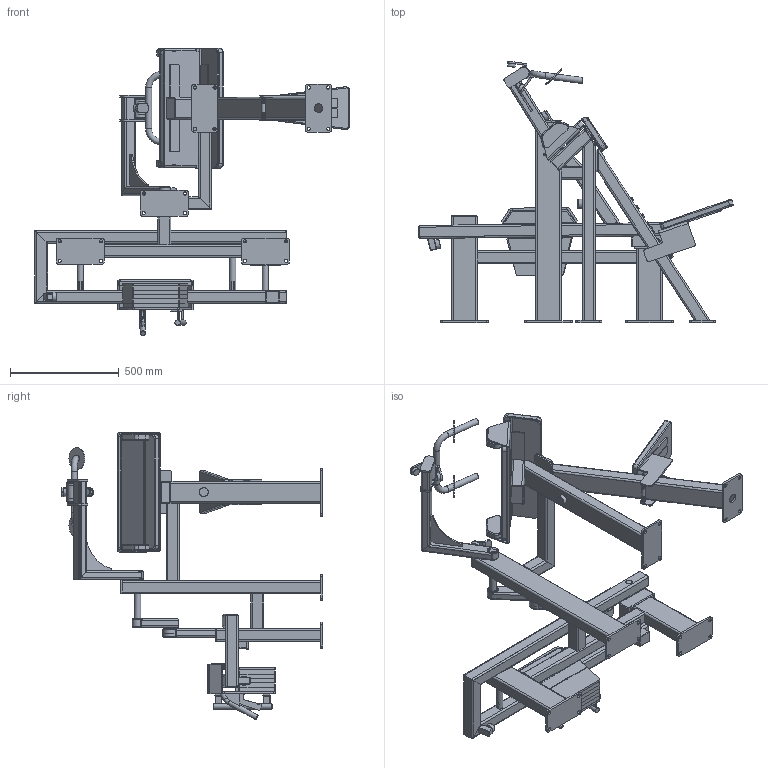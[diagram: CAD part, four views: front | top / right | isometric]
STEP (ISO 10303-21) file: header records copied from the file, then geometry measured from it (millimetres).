
FILE_DESCRIPTION(/* description */ (''),/* implementation_level */ '2;1');
FILE_NAME(/* name */ 'OG82_3D_Low.step',/* time_stamp */ '2025-11-11T16:07:18+02:00',/* author */ (''),/* organization */ (''),/* preprocessor_version */ 'ST-DEVELOPER v20.1',/* originating_system */ 'Autodesk Translation Framework v14.21.0.0',/* authorisation */ '');
FILE_SCHEMA (('AUTOMOTIVE_DESIGN { 1 0 10303 214 3 1 1 }'));
Products named in the file (1): OG82_3D_Low
Bounding box: 1446.84 x 1201.96 x 1320.46 mm (x, y, z)
Volume: 30815970.5 mm3; surface area: 8018590.6 mm2
Topology: 99 solids, 105 shells, 1676 faces, 4049 edges, 2596 vertices
Faces by surface type: plane 809, cylinder 772, torus 51, bspline 26, cone 10, sphere 8
Full cylindrical faces by diameter (mm): 8.4 x1, 10 x2, 10.2 x34, 11.8 x1, 12 x4, 13 x20, 14 x1, 15 x20, 17.5 x64, 18 x1, 20.206 x60, 24.96 x5, 25 x8, 28 x9, 30 x11, 30.5 x3, 35 x2, 40 x2, 42 x3, 47 x2, 49 x2, 50 x2, 55 x2, 57 x4, 62 x1, 63 x2, 100 x2
Entity records: 73044 total; most frequent: CARTESIAN_POINT 33410, DIRECTION 8218, ORIENTED_EDGE 8070, EDGE_CURVE 4035, AXIS2_PLACEMENT_3D 2934, VERTEX_POINT 2596, LINE 2350, VECTOR 2350
